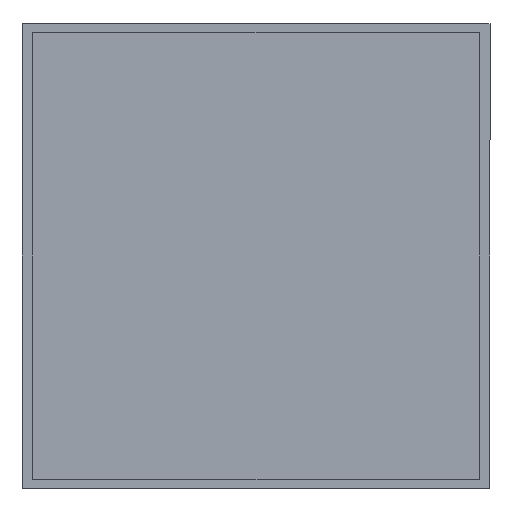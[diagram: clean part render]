
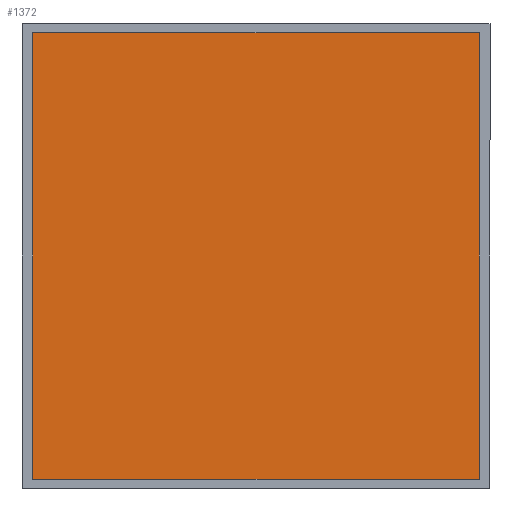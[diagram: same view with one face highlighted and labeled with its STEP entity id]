
A CAD part, front view. The second image highlights one B-rep face of the part: STEP entity #1372.
In plain terms, the highlighted planar face has unit normal (0, -1, 0).
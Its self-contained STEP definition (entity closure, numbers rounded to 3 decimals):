
#118 = CARTESIAN_POINT ( 'NONE',  ( 24.524, -2.324, -20.423 ) ) ;
#306 = DIRECTION ( 'NONE',  ( 0., 0., 1. ) ) ;
#495 = VECTOR ( 'NONE', #306, 1000. ) ;
#644 = VERTEX_POINT ( 'NONE', #118 ) ;
#995 = EDGE_CURVE ( 'NONE', #3781, #644, #1305, .T. ) ;
#1175 = DIRECTION ( 'NONE',  ( 0., 0., 1. ) ) ;
#1305 = LINE ( 'NONE', #4087, #5519 ) ;
#1372 = ADVANCED_FACE ( 'NONE', ( #5203 ), #4688, .F. ) ;
#1376 = EDGE_CURVE ( 'NONE', #644, #2427, #3400, .T. ) ;
#1414 = CARTESIAN_POINT ( 'NONE',  ( -13.476, -2.324, -20.423 ) ) ;
#1428 = EDGE_CURVE ( 'NONE', #2427, #6819, #2612, .T. ) ;
#1451 = ORIENTED_EDGE ( 'NONE', *, *, #1428, .F. ) ;
#2032 = LINE ( 'NONE', #2664, #4991 ) ;
#2282 = ORIENTED_EDGE ( 'NONE', *, *, #4540, .F. ) ;
#2427 = VERTEX_POINT ( 'NONE', #6710 ) ;
#2612 = LINE ( 'NONE', #1414, #495 ) ;
#2664 = CARTESIAN_POINT ( 'NONE',  ( -13.476, -2.324, 17.577 ) ) ;
#2836 = CARTESIAN_POINT ( 'NONE',  ( -13.476, -2.324, -20.423 ) ) ;
#3400 = LINE ( 'NONE', #2836, #6826 ) ;
#3645 = AXIS2_PLACEMENT_3D ( 'NONE', #6208, #4619, #1175 ) ;
#3781 = VERTEX_POINT ( 'NONE', #5294 ) ;
#4087 = CARTESIAN_POINT ( 'NONE',  ( 24.524, -2.324, -20.423 ) ) ;
#4288 = ORIENTED_EDGE ( 'NONE', *, *, #995, .F. ) ;
#4540 = EDGE_CURVE ( 'NONE', #6819, #3781, #2032, .T. ) ;
#4549 = DIRECTION ( 'NONE',  ( -1., 0., 0. ) ) ;
#4619 = DIRECTION ( 'NONE',  ( 0., 1., 0. ) ) ;
#4688 = PLANE ( 'NONE',  #3645 ) ;
#4991 = VECTOR ( 'NONE', #5991, 1000. ) ;
#5105 = DIRECTION ( 'NONE',  ( 0., 0., -1. ) ) ;
#5200 = ORIENTED_EDGE ( 'NONE', *, *, #1376, .F. ) ;
#5203 = FACE_OUTER_BOUND ( 'NONE', #6427, .T. ) ;
#5294 = CARTESIAN_POINT ( 'NONE',  ( 24.524, -2.324, 17.577 ) ) ;
#5519 = VECTOR ( 'NONE', #5105, 1000. ) ;
#5991 = DIRECTION ( 'NONE',  ( 1., 0., 0. ) ) ;
#6208 = CARTESIAN_POINT ( 'NONE',  ( -13.476, -2.324, 17.577 ) ) ;
#6427 = EDGE_LOOP ( 'NONE', ( #1451, #5200, #4288, #2282 ) ) ;
#6710 = CARTESIAN_POINT ( 'NONE',  ( -13.476, -2.324, -20.423 ) ) ;
#6819 = VERTEX_POINT ( 'NONE', #7111 ) ;
#6826 = VECTOR ( 'NONE', #4549, 1000. ) ;
#7111 = CARTESIAN_POINT ( 'NONE',  ( -13.476, -2.324, 17.577 ) ) ;
